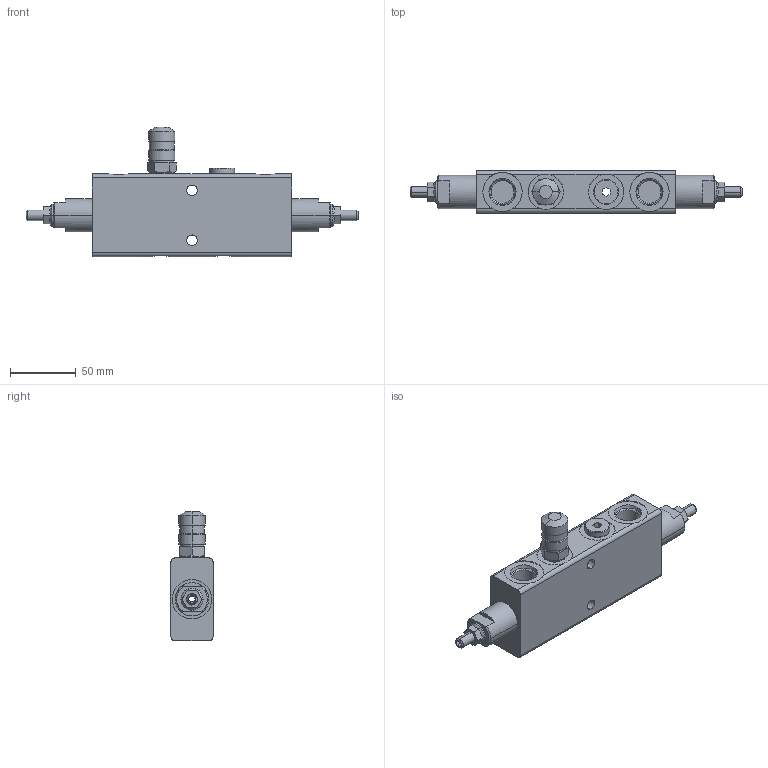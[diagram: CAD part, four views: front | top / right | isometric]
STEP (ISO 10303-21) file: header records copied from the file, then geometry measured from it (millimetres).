
FILE_DESCRIPTION (( 'STEP AP214' ), '1' );
FILE_NAME ('VCD34002.STEP', '2025-05-14T00:54:54', ( '' ), ( '' ), 'SwSTEP 2.0', 'SolidWorks 2023', '' );
FILE_SCHEMA (( 'AUTOMOTIVE_DESIGN' ));
Length unit declared in the file: millimetre
Products named in the file (1): VCD34002
Bounding box: 252.95 x 32 x 98.5 mm (x, y, z)
Surface area: 47915.7 mm2 (no closed solid volume)
Topology: 0 solids, 9 shells, 190 faces, 493 edges, 316 vertices
Faces by surface type: plane 74, cylinder 56, cone 46, torus 14
Entity records: 6239 total; most frequent: CARTESIAN_POINT 1550, DIRECTION 1021, ORIENTED_EDGE 916, EDGE_CURVE 493, AXIS2_PLACEMENT_3D 397, VERTEX_POINT 316, VECTOR 227, LINE 227
